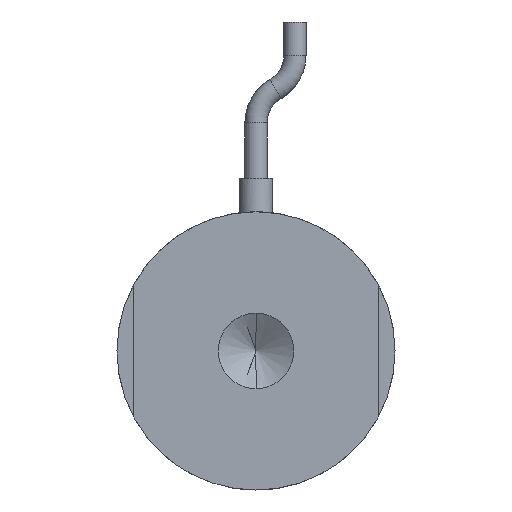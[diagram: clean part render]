
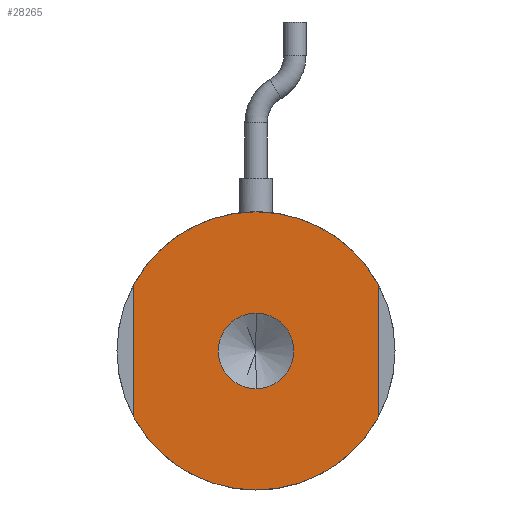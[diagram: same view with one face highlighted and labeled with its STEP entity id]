
A CAD part, front view. The second image highlights one B-rep face of the part: STEP entity #28265.
In plain terms, the highlighted planar face has unit normal (0, -1, 0).
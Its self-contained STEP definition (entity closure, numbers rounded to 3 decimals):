
#564 = VERTEX_POINT ( 'NONE', #8458 ) ;
#2511 = DIRECTION ( 'NONE',  ( 0., 0., 1. ) ) ;
#3693 = DIRECTION ( 'NONE',  ( 0., -1., 0. ) ) ;
#4110 = CARTESIAN_POINT ( 'NONE',  ( 11., 0., 0. ) ) ;
#4634 = DIRECTION ( 'NONE',  ( 0., 1., 0. ) ) ;
#4694 = CARTESIAN_POINT ( 'NONE',  ( 0., 0., 0. ) ) ;
#4727 = CIRCLE ( 'NONE', #19544, 12.5 ) ;
#5471 = EDGE_CURVE ( 'NONE', #31436, #28613, #32807, .T. ) ;
#5916 = CARTESIAN_POINT ( 'NONE',  ( 11., 0., -5.937 ) ) ;
#7547 = ORIENTED_EDGE ( 'NONE', *, *, #39727, .F. ) ;
#7658 = DIRECTION ( 'NONE',  ( 0., 0., -1. ) ) ;
#8226 = DIRECTION ( 'NONE',  ( 0., 0., 1. ) ) ;
#8458 = CARTESIAN_POINT ( 'NONE',  ( 0., 0., -3.4 ) ) ;
#8480 = LINE ( 'NONE', #4110, #44128 ) ;
#9204 = EDGE_CURVE ( 'NONE', #564, #38329, #33241, .T. ) ;
#10287 = EDGE_LOOP ( 'NONE', ( #41549, #24455 ) ) ;
#11215 = CIRCLE ( 'NONE', #35766, 12.5 ) ;
#11408 = ORIENTED_EDGE ( 'NONE', *, *, #21589, .F. ) ;
#12196 = CIRCLE ( 'NONE', #42646, 12.5 ) ;
#12330 = AXIS2_PLACEMENT_3D ( 'NONE', #24661, #3693, #28098 ) ;
#12997 = CARTESIAN_POINT ( 'NONE',  ( 0., 0., 0. ) ) ;
#13077 = VERTEX_POINT ( 'NONE', #40496 ) ;
#13629 = VERTEX_POINT ( 'NONE', #31876 ) ;
#15251 = CARTESIAN_POINT ( 'NONE',  ( 0., 0., 0. ) ) ;
#16519 = DIRECTION ( 'NONE',  ( 0., 0., 1. ) ) ;
#18596 = CARTESIAN_POINT ( 'NONE',  ( -11., 0., 5.937 ) ) ;
#18768 = DIRECTION ( 'NONE',  ( 0., 0., -1. ) ) ;
#19544 = AXIS2_PLACEMENT_3D ( 'NONE', #25571, #4634, #29005 ) ;
#19578 = ORIENTED_EDGE ( 'NONE', *, *, #24537, .F. ) ;
#21220 = ORIENTED_EDGE ( 'NONE', *, *, #29087, .F. ) ;
#21589 = EDGE_CURVE ( 'NONE', #28613, #13077, #33955, .T. ) ;
#23315 = DIRECTION ( 'NONE',  ( 0., 0., 1. ) ) ;
#23486 = DIRECTION ( 'NONE',  ( 0., 1., 0. ) ) ;
#23926 = ORIENTED_EDGE ( 'NONE', *, *, #36235, .F. ) ;
#24455 = ORIENTED_EDGE ( 'NONE', *, *, #25877, .F. ) ;
#24537 = EDGE_CURVE ( 'NONE', #13629, #31436, #11215, .T. ) ;
#24661 = CARTESIAN_POINT ( 'NONE',  ( 0., 0., 0. ) ) ;
#24822 = CIRCLE ( 'NONE', #12330, 3.4 ) ;
#25555 = EDGE_LOOP ( 'NONE', ( #26611, #19578, #23926, #7547, #21220, #11408 ) ) ;
#25571 = CARTESIAN_POINT ( 'NONE',  ( 0., 0., 0. ) ) ;
#25877 = EDGE_CURVE ( 'NONE', #38329, #564, #24822, .T. ) ;
#26611 = ORIENTED_EDGE ( 'NONE', *, *, #5471, .F. ) ;
#27506 = AXIS2_PLACEMENT_3D ( 'NONE', #40387, #43830, #23315 ) ;
#28098 = DIRECTION ( 'NONE',  ( 0., 0., -1. ) ) ;
#28265 = ADVANCED_FACE ( 'NONE', ( #40255, #41334 ), #40230, .F. ) ;
#28613 = VERTEX_POINT ( 'NONE', #18596 ) ;
#28894 = CARTESIAN_POINT ( 'NONE',  ( -11., 0., -5.937 ) ) ;
#29005 = DIRECTION ( 'NONE',  ( 0., 0., 1. ) ) ;
#29055 = DIRECTION ( 'NONE',  ( 0., 1., 0. ) ) ;
#29087 = EDGE_CURVE ( 'NONE', #13077, #33129, #12196, .T. ) ;
#31436 = VERTEX_POINT ( 'NONE', #28894 ) ;
#31876 = CARTESIAN_POINT ( 'NONE',  ( 0., 0., -12.5 ) ) ;
#32807 = LINE ( 'NONE', #33887, #42968 ) ;
#33116 = AXIS2_PLACEMENT_3D ( 'NONE', #12997, #37139, #16519 ) ;
#33129 = VERTEX_POINT ( 'NONE', #37545 ) ;
#33241 = CIRCLE ( 'NONE', #34211, 3.4 ) ;
#33883 = DIRECTION ( 'NONE',  ( 0., 0., 1. ) ) ;
#33887 = CARTESIAN_POINT ( 'NONE',  ( -11., 0., 0. ) ) ;
#33955 = CIRCLE ( 'NONE', #33116, 12.5 ) ;
#34183 = VERTEX_POINT ( 'NONE', #5916 ) ;
#34211 = AXIS2_PLACEMENT_3D ( 'NONE', #15251, #39339, #18768 ) ;
#35766 = AXIS2_PLACEMENT_3D ( 'NONE', #4694, #29055, #8226 ) ;
#36235 = EDGE_CURVE ( 'NONE', #34183, #13629, #4727, .T. ) ;
#37139 = DIRECTION ( 'NONE',  ( 0., 1., 0. ) ) ;
#37545 = CARTESIAN_POINT ( 'NONE',  ( 11., 0., 5.937 ) ) ;
#38329 = VERTEX_POINT ( 'NONE', #44734 ) ;
#39339 = DIRECTION ( 'NONE',  ( 0., -1., 0. ) ) ;
#39727 = EDGE_CURVE ( 'NONE', #33129, #34183, #8480, .T. ) ;
#40230 = PLANE ( 'NONE',  #27506 ) ;
#40255 = FACE_BOUND ( 'NONE', #10287, .T. ) ;
#40387 = CARTESIAN_POINT ( 'NONE',  ( 0., 0., 0. ) ) ;
#40496 = CARTESIAN_POINT ( 'NONE',  ( 0., 0., 12.5 ) ) ;
#41334 = FACE_OUTER_BOUND ( 'NONE', #25555, .T. ) ;
#41549 = ORIENTED_EDGE ( 'NONE', *, *, #9204, .F. ) ;
#42646 = AXIS2_PLACEMENT_3D ( 'NONE', #43999, #23486, #2511 ) ;
#42968 = VECTOR ( 'NONE', #33883, 1000. ) ;
#43830 = DIRECTION ( 'NONE',  ( 0., 1., 0. ) ) ;
#43999 = CARTESIAN_POINT ( 'NONE',  ( 0., 0., 0. ) ) ;
#44128 = VECTOR ( 'NONE', #7658, 1000. ) ;
#44734 = CARTESIAN_POINT ( 'NONE',  ( 0., 0., 3.4 ) ) ;
